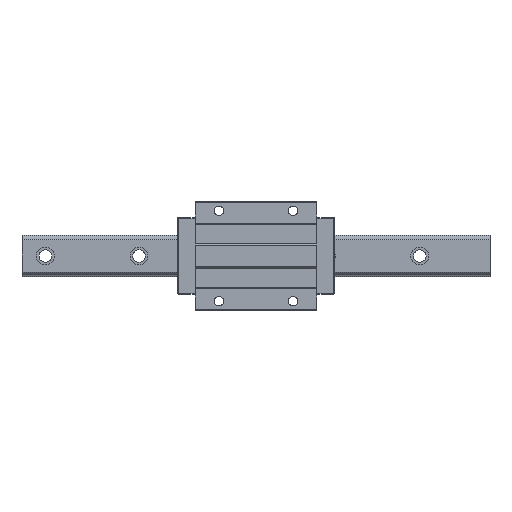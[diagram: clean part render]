
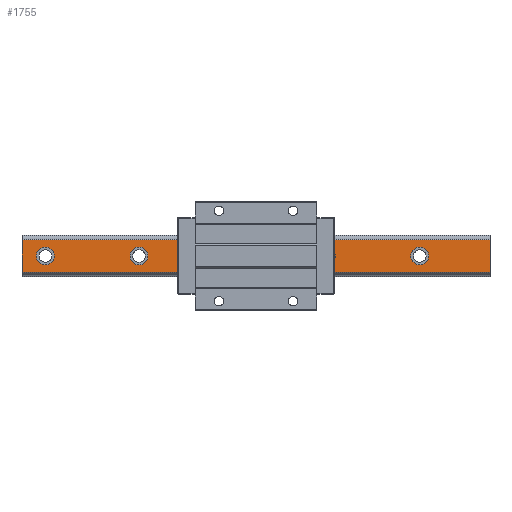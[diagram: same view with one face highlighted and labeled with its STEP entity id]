
A CAD part, top view. The second image highlights one B-rep face of the part: STEP entity #1755.
In plain terms, the highlighted planar face has unit normal (0, 0, 1).
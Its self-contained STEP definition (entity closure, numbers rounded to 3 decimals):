
#28 = AXIS2_PLACEMENT_3D ( 'NONE', #5533, #1008, #3848 ) ;
#33 = DIRECTION ( 'NONE',  ( 0., 0., 1. ) ) ;
#41 = LINE ( 'NONE', #6087, #6224 ) ;
#103 = DIRECTION ( 'NONE',  ( 1., 0., 0. ) ) ;
#182 = CARTESIAN_POINT ( 'NONE',  ( -270., 0., 44. ) ) ;
#183 = DIRECTION ( 'NONE',  ( 0., -1., 0. ) ) ;
#228 = EDGE_CURVE ( 'NONE', #1368, #5531, #41, .T. ) ;
#316 = VERTEX_POINT ( 'NONE', #4028 ) ;
#393 = DIRECTION ( 'NONE',  ( 0., 0., 1. ) ) ;
#413 = VERTEX_POINT ( 'NONE', #5381 ) ;
#469 = FACE_BOUND ( 'NONE', #3708, .T. ) ;
#485 = AXIS2_PLACEMENT_3D ( 'NONE', #1476, #918, #3719 ) ;
#581 = CARTESIAN_POINT ( 'NONE',  ( -150., 0., 44. ) ) ;
#603 = VERTEX_POINT ( 'NONE', #2109 ) ;
#641 = ORIENTED_EDGE ( 'NONE', *, *, #1829, .F. ) ;
#858 = CARTESIAN_POINT ( 'NONE',  ( -300., -20.932, 44. ) ) ;
#918 = DIRECTION ( 'NONE',  ( 0., 0., 1. ) ) ;
#965 = DIRECTION ( 'NONE',  ( 1., 0., 0. ) ) ;
#1008 = DIRECTION ( 'NONE',  ( 0., 0., -1. ) ) ;
#1040 = EDGE_LOOP ( 'NONE', ( #3608, #3954 ) ) ;
#1092 = DIRECTION ( 'NONE',  ( -1., 0., 0. ) ) ;
#1117 = CARTESIAN_POINT ( 'NONE',  ( 78.5, 0., 44. ) ) ;
#1133 = LINE ( 'NONE', #2269, #1328 ) ;
#1328 = VECTOR ( 'NONE', #5025, 1000. ) ;
#1368 = VERTEX_POINT ( 'NONE', #2844 ) ;
#1375 = CIRCLE ( 'NONE', #3579, 11.5 ) ;
#1389 = ORIENTED_EDGE ( 'NONE', *, *, #2802, .F. ) ;
#1476 = CARTESIAN_POINT ( 'NONE',  ( 90., 0., 44. ) ) ;
#1501 = DIRECTION ( 'NONE',  ( 1., 0., 0. ) ) ;
#1557 = CARTESIAN_POINT ( 'NONE',  ( 210., 0., 44. ) ) ;
#1674 = PLANE ( 'NONE',  #28 ) ;
#1755 = ADVANCED_FACE ( 'NONE', ( #6595, #469, #6673, #2687, #6041, #5498 ), #1674, .F. ) ;
#1829 = EDGE_CURVE ( 'NONE', #316, #5592, #2463, .T. ) ;
#1873 = EDGE_CURVE ( 'NONE', #4207, #2171, #5950, .T. ) ;
#2002 = CIRCLE ( 'NONE', #6081, 11.5 ) ;
#2019 = AXIS2_PLACEMENT_3D ( 'NONE', #6075, #33, #103 ) ;
#2045 = CARTESIAN_POINT ( 'NONE',  ( -30., 0., 44. ) ) ;
#2109 = CARTESIAN_POINT ( 'NONE',  ( -138.5, 0., 44. ) ) ;
#2171 = VERTEX_POINT ( 'NONE', #6418 ) ;
#2176 = CARTESIAN_POINT ( 'NONE',  ( 300., 20.932, 44. ) ) ;
#2223 = DIRECTION ( 'NONE',  ( 1., 0., 0. ) ) ;
#2269 = CARTESIAN_POINT ( 'NONE',  ( 300., -20.932, 44. ) ) ;
#2345 = EDGE_CURVE ( 'NONE', #4913, #5248, #1375, .T. ) ;
#2398 = DIRECTION ( 'NONE',  ( 0., 0., 1. ) ) ;
#2463 = CIRCLE ( 'NONE', #485, 11.5 ) ;
#2466 = AXIS2_PLACEMENT_3D ( 'NONE', #5054, #5605, #5538 ) ;
#2504 = CARTESIAN_POINT ( 'NONE',  ( 198.5, 0., 44. ) ) ;
#2560 = ORIENTED_EDGE ( 'NONE', *, *, #5757, .T. ) ;
#2601 = AXIS2_PLACEMENT_3D ( 'NONE', #182, #2398, #5193 ) ;
#2634 = DIRECTION ( 'NONE',  ( 0., 0., 1. ) ) ;
#2687 = FACE_BOUND ( 'NONE', #1040, .T. ) ;
#2705 = EDGE_LOOP ( 'NONE', ( #641, #1389 ) ) ;
#2802 = EDGE_CURVE ( 'NONE', #5592, #316, #4441, .T. ) ;
#2818 = EDGE_CURVE ( 'NONE', #2989, #603, #7131, .T. ) ;
#2841 = DIRECTION ( 'NONE',  ( 0., 0., 1. ) ) ;
#2844 = CARTESIAN_POINT ( 'NONE',  ( 300., -20.932, 44. ) ) ;
#2895 = ORIENTED_EDGE ( 'NONE', *, *, #3166, .F. ) ;
#2989 = VERTEX_POINT ( 'NONE', #6926 ) ;
#3095 = EDGE_CURVE ( 'NONE', #5429, #413, #4446, .T. ) ;
#3166 = EDGE_CURVE ( 'NONE', #2171, #4207, #2002, .T. ) ;
#3223 = DIRECTION ( 'NONE',  ( 0., 0., 1. ) ) ;
#3293 = CIRCLE ( 'NONE', #2601, 11.5 ) ;
#3344 = VECTOR ( 'NONE', #183, 1000. ) ;
#3383 = DIRECTION ( 'NONE',  ( 1., 0., 0. ) ) ;
#3419 = AXIS2_PLACEMENT_3D ( 'NONE', #6716, #2841, #3383 ) ;
#3473 = CARTESIAN_POINT ( 'NONE',  ( -18.5, 0., 44. ) ) ;
#3551 = DIRECTION ( 'NONE',  ( -1., 0., 0. ) ) ;
#3579 = AXIS2_PLACEMENT_3D ( 'NONE', #2045, #4839, #1501 ) ;
#3608 = ORIENTED_EDGE ( 'NONE', *, *, #2345, .F. ) ;
#3624 = CARTESIAN_POINT ( 'NONE',  ( -281.5, 0., 44. ) ) ;
#3688 = EDGE_CURVE ( 'NONE', #4385, #1368, #1133, .T. ) ;
#3708 = EDGE_LOOP ( 'NONE', ( #4240, #5799 ) ) ;
#3719 = DIRECTION ( 'NONE',  ( 1., 0., 0. ) ) ;
#3848 = DIRECTION ( 'NONE',  ( 0., 1., 0. ) ) ;
#3889 = DIRECTION ( 'NONE',  ( 0., 0., 1. ) ) ;
#3940 = EDGE_LOOP ( 'NONE', ( #5234, #4360 ) ) ;
#3954 = ORIENTED_EDGE ( 'NONE', *, *, #4453, .F. ) ;
#3971 = EDGE_CURVE ( 'NONE', #603, #2989, #5272, .T. ) ;
#3995 = CARTESIAN_POINT ( 'NONE',  ( -41.5, 0., 44. ) ) ;
#4028 = CARTESIAN_POINT ( 'NONE',  ( 101.5, 0., 44. ) ) ;
#4035 = ORIENTED_EDGE ( 'NONE', *, *, #3688, .F. ) ;
#4072 = EDGE_LOOP ( 'NONE', ( #5051, #7015, #4035, #2560 ) ) ;
#4191 = EDGE_CURVE ( 'NONE', #413, #5429, #3293, .T. ) ;
#4207 = VERTEX_POINT ( 'NONE', #2504 ) ;
#4240 = ORIENTED_EDGE ( 'NONE', *, *, #4191, .F. ) ;
#4360 = ORIENTED_EDGE ( 'NONE', *, *, #2818, .F. ) ;
#4385 = VERTEX_POINT ( 'NONE', #2176 ) ;
#4441 = CIRCLE ( 'NONE', #2466, 11.5 ) ;
#4446 = CIRCLE ( 'NONE', #5959, 11.5 ) ;
#4453 = EDGE_CURVE ( 'NONE', #5248, #4913, #5157, .T. ) ;
#4645 = CARTESIAN_POINT ( 'NONE',  ( 300., 20.932, 44. ) ) ;
#4790 = DIRECTION ( 'NONE',  ( 1., 0., 0. ) ) ;
#4792 = CARTESIAN_POINT ( 'NONE',  ( -300., -20.932, 44. ) ) ;
#4839 = DIRECTION ( 'NONE',  ( 0., 0., 1. ) ) ;
#4863 = CARTESIAN_POINT ( 'NONE',  ( -270., 0., 44. ) ) ;
#4913 = VERTEX_POINT ( 'NONE', #3473 ) ;
#5025 = DIRECTION ( 'NONE',  ( 0., -1., 0. ) ) ;
#5051 = ORIENTED_EDGE ( 'NONE', *, *, #5338, .T. ) ;
#5054 = CARTESIAN_POINT ( 'NONE',  ( 90., 0., 44. ) ) ;
#5071 = EDGE_LOOP ( 'NONE', ( #2895, #5916 ) ) ;
#5157 = CIRCLE ( 'NONE', #2019, 11.5 ) ;
#5158 = LINE ( 'NONE', #4645, #5697 ) ;
#5193 = DIRECTION ( 'NONE',  ( 1., 0., 0. ) ) ;
#5234 = ORIENTED_EDGE ( 'NONE', *, *, #3971, .F. ) ;
#5248 = VERTEX_POINT ( 'NONE', #3995 ) ;
#5272 = CIRCLE ( 'NONE', #3419, 11.5 ) ;
#5338 = EDGE_CURVE ( 'NONE', #5827, #5531, #6893, .T. ) ;
#5381 = CARTESIAN_POINT ( 'NONE',  ( -258.5, 0., 44. ) ) ;
#5429 = VERTEX_POINT ( 'NONE', #3624 ) ;
#5493 = AXIS2_PLACEMENT_3D ( 'NONE', #7060, #2634, #5882 ) ;
#5498 = FACE_BOUND ( 'NONE', #5071, .T. ) ;
#5531 = VERTEX_POINT ( 'NONE', #4792 ) ;
#5533 = CARTESIAN_POINT ( 'NONE',  ( 300., -20.932, 44. ) ) ;
#5538 = DIRECTION ( 'NONE',  ( 1., 0., 0. ) ) ;
#5592 = VERTEX_POINT ( 'NONE', #1117 ) ;
#5605 = DIRECTION ( 'NONE',  ( 0., 0., 1. ) ) ;
#5697 = VECTOR ( 'NONE', #3551, 1000. ) ;
#5757 = EDGE_CURVE ( 'NONE', #4385, #5827, #5158, .T. ) ;
#5799 = ORIENTED_EDGE ( 'NONE', *, *, #3095, .F. ) ;
#5827 = VERTEX_POINT ( 'NONE', #6624 ) ;
#5882 = DIRECTION ( 'NONE',  ( 1., 0., 0. ) ) ;
#5916 = ORIENTED_EDGE ( 'NONE', *, *, #1873, .F. ) ;
#5950 = CIRCLE ( 'NONE', #5493, 11.5 ) ;
#5959 = AXIS2_PLACEMENT_3D ( 'NONE', #4863, #393, #4790 ) ;
#6041 = FACE_BOUND ( 'NONE', #2705, .T. ) ;
#6075 = CARTESIAN_POINT ( 'NONE',  ( -30., 0., 44. ) ) ;
#6081 = AXIS2_PLACEMENT_3D ( 'NONE', #1557, #3223, #965 ) ;
#6087 = CARTESIAN_POINT ( 'NONE',  ( 300., -20.932, 44. ) ) ;
#6224 = VECTOR ( 'NONE', #1092, 1000. ) ;
#6418 = CARTESIAN_POINT ( 'NONE',  ( 221.5, 0., 44. ) ) ;
#6595 = FACE_BOUND ( 'NONE', #3940, .T. ) ;
#6624 = CARTESIAN_POINT ( 'NONE',  ( -300., 20.932, 44. ) ) ;
#6673 = FACE_OUTER_BOUND ( 'NONE', #4072, .T. ) ;
#6716 = CARTESIAN_POINT ( 'NONE',  ( -150., 0., 44. ) ) ;
#6893 = LINE ( 'NONE', #858, #3344 ) ;
#6926 = CARTESIAN_POINT ( 'NONE',  ( -161.5, 0., 44. ) ) ;
#7010 = AXIS2_PLACEMENT_3D ( 'NONE', #581, #3889, #2223 ) ;
#7015 = ORIENTED_EDGE ( 'NONE', *, *, #228, .F. ) ;
#7060 = CARTESIAN_POINT ( 'NONE',  ( 210., 0., 44. ) ) ;
#7131 = CIRCLE ( 'NONE', #7010, 11.5 ) ;
